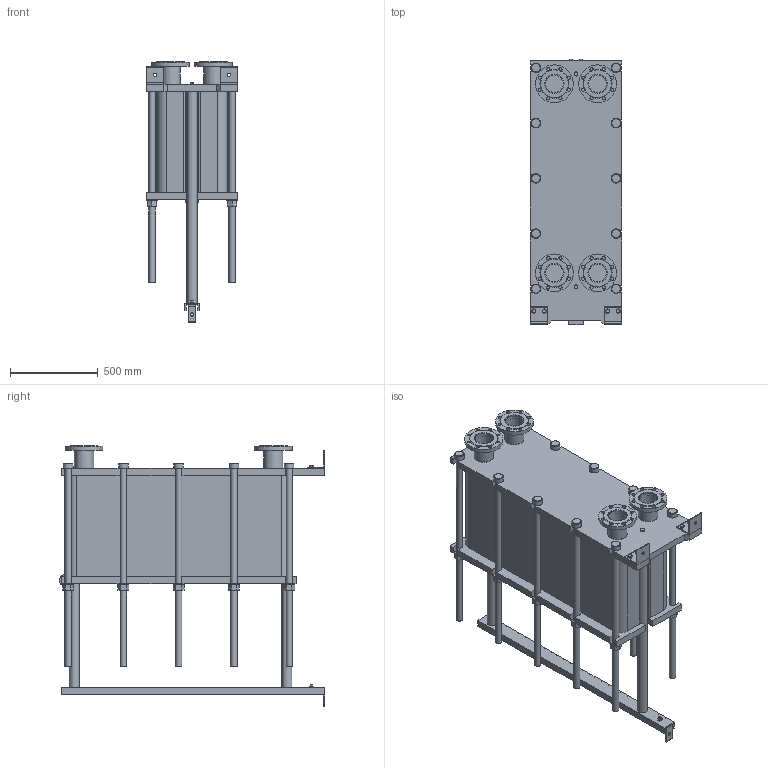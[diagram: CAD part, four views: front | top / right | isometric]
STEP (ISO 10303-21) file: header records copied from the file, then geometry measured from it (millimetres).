
FILE_DESCRIPTION(/* description */ (''),/* implementation_level */ '2;1');
FILE_NAME(/* name */ 'C:\Users\zhuro\Desktop\ENCO\TO\ЭН-04\ЭН-0,5-04-167-1.stp',/* time_stamp */ '2022-06-06T11:00:00+03:00',/* author */ ('zhuro'),/* organization */ (''),/* preprocessor_version */ 'ST-DEVELOPER v18.1',/* originating_system */ 'Autodesk Inventor 2022',/* authorisation */ '');
FILE_SCHEMA (('AUTOMOTIVE_DESIGN { 1 0 10303 214 3 1 1 }'));
Length unit declared in the file: millimetre
Products named in the file (1): ЭН-0,5-04-167-1
Bounding box: 520 x 1510 x 1483.5 mm (x, y, z)
Volume: 362747024.2 mm3; surface area: 9828598.3 mm2
Topology: 45 solids, 45 shells, 668 faces, 1611 edges, 1048 vertices
Faces by surface type: plane 457, cylinder 166, cone 39, torus 6
Full cylindrical faces by diameter (mm): 8 x4, 10 x2, 16 x8, 18 x35, 36 x25, 40 x2, 42 x1, 45 x4, 54 x10, 57 x2, 60 x10, 68 x2, 100 x4, 110 x8, 215 x4
Entity records: 23607 total; most frequent: CARTESIAN_POINT 7348, DIRECTION 3371, ORIENTED_EDGE 3142, EDGE_CURVE 1571, AXIS2_PLACEMENT_3D 1199, VERTEX_POINT 1044, LINE 973, VECTOR 973
